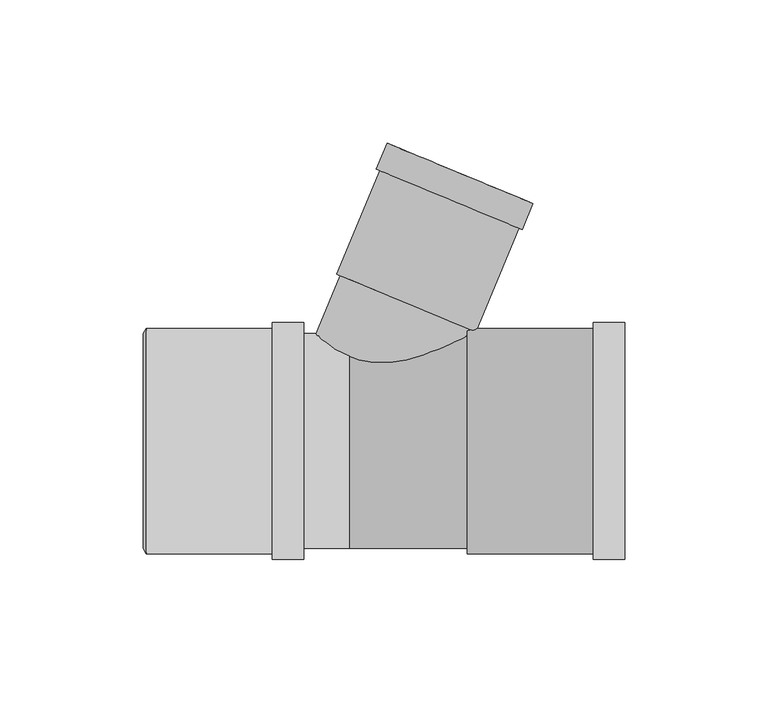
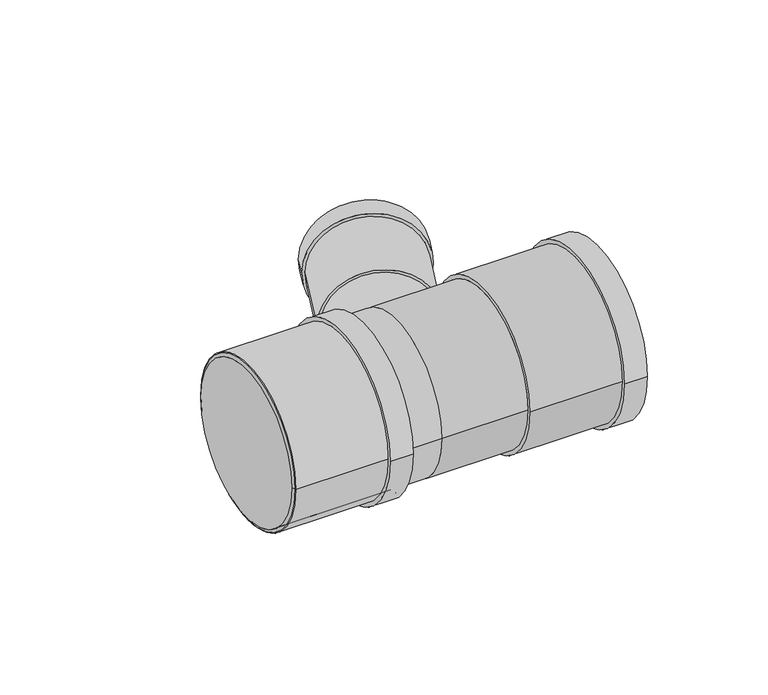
"""IFC4 building model written with IfcOpenShell, lengths in millimetres: pipe fitting geometry, Superdrain HTEA Branch : Superdrain HTEA Branch."""

from ifc_helpers import new_model, si_unit, point, frame, origin, origin_2d, place, context, project, spatial, polyline, circle_curve, trimmed, segment, composite_curve, outline, extrude, source, transform, mapped, element, save
from ifc_brep_helpers import plane_surface, revolved_surface, advanced_brep


def pipe_fitting_d21c2c27(model_context):
    return source(origin(), model_context, "Body", "SolidModel", [
        extrude(outline(composite_curve([segment(trimmed(circle_curve(origin_2d(), 39.375), [point((39.375, 0.0))], [point((-39.375, 0.0))], False, "CARTESIAN"), True, "CONTINUOUS"), segment(trimmed(circle_curve(origin_2d(), 39.375), [point((-39.375, 0.0))], [point((39.375, 0.0))], False, "CARTESIAN"), True, "CONTINUOUS")], self_intersect=False), holes=[composite_curve([segment(trimmed(circle_curve(origin_2d(), 37.5), [point((37.5, 0.0))], [point((-37.5, 0.0))], True, "CARTESIAN"), True, "CONTINUOUS"), segment(trimmed(circle_curve(origin_2d(), 37.5), [point((-37.5, 0.0))], [point((37.5, 0.0))], True, "CARTESIAN"), True, "CONTINUOUS")], self_intersect=False)]), frame((-70.8, 0.0, 0.0), z_axis=(1.0, 0.0, 0.0), x_axis=(0.0, 1.0, 0.0)), (0.0, 0.0, 1.0), 55.0),
        extrude(outline(composite_curve([segment(trimmed(circle_curve(origin_2d(), 41.34375), [point((41.34375, 0.0))], [point((-41.34375, 0.0))], False, "CARTESIAN"), True, "CONTINUOUS"), segment(trimmed(circle_curve(origin_2d(), 41.34375), [point((-41.34375, 0.0))], [point((41.34375, 0.0))], False, "CARTESIAN"), True, "CONTINUOUS")], self_intersect=False), holes=[composite_curve([segment(trimmed(circle_curve(origin_2d(), 37.5), [point((37.5, 0.0))], [point((-37.5, 0.0))], True, "CARTESIAN"), True, "CONTINUOUS"), segment(trimmed(circle_curve(origin_2d(), 37.5), [point((-37.5, 0.0))], [point((37.5, 0.0))], True, "CARTESIAN"), True, "CONTINUOUS")], self_intersect=False)]), frame((-26.8, 0.0, 0.0), z_axis=(1.0, 0.0, 0.0), x_axis=(0.0, 1.0, 0.0)), (0.0, 0.0, 1.0), 11.0),
        advanced_brep(
        [(-71.8, 37.5, 0.0), (-71.8, -37.5, 0.0), (-70.8, 39.375, 0.0), (-70.8, -39.375, 0.0)],
        [
            (0, 1, circle_curve(frame((-71.8, 0.0, 0.0), z_axis=(-1.0, 0.0, 0.0), x_axis=(0.0, 1.0000000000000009, 0.0)), 37.5)),
            (1, 0, circle_curve(frame((-71.8, 0.0, 0.0), z_axis=(-1.0, 0.0, 0.0), x_axis=(0.0, -1.0000000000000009, 0.0)), 37.5)),
            (2, 3, circle_curve(frame((-70.8, 0.0, 0.0), z_axis=(1.0, 0.0, 0.0), x_axis=(0.0, -1.0000000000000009, 0.0)), 39.375)),
            (3, 2, circle_curve(frame((-70.8, 0.0, 0.0), z_axis=(1.0, 0.0, 0.0), x_axis=(0.0, 1.0000000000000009, 0.0)), 39.375)),
            (3, 1),
            (0, 2),
        ],
        [
            plane_surface(frame((-71.8, 0.0, 0.0), z_axis=(-1.0, 0.0, 0.0), x_axis=(0.0, 0.0, -1.0))),
            plane_surface(frame((-70.8, 0.0, 0.0), z_axis=(1.0, 0.0, 0.0), x_axis=(0.0, 0.0, -1.0))),
            revolved_surface(polyline([(-71.8, 37.49999999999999, 0.0), (-70.8, 39.375, 0.0)]), (-91.8, 0.0, 0.0), (1.0000000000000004, 0.0, 0.0)),
            revolved_surface(polyline([(-71.8, -37.49999999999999, 0.0), (-70.8, -39.375, 0.0)]), (-91.8, 0.0, 0.0), (1.0000000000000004, 0.0, 0.0)),
        ],
        [
            (0, [[1, 2]]),
            (1, [[3, 4]]),
            (2, [[-4, 5, -1, 6]]),
            (3, [[-3, -6, -2, -5]]),
        ],
    ),
        extrude(outline(composite_curve([segment(trimmed(circle_curve(origin_2d(), 39.375), [point((-39.375, 0.0))], [point((39.375, 0.0))], False, "CARTESIAN"), True, "CONTINUOUS"), segment(trimmed(circle_curve(origin_2d(), 39.375), [point((39.375, 0.0))], [point((-39.375, 0.0))], False, "CARTESIAN"), True, "CONTINUOUS")], self_intersect=False), holes=[composite_curve([segment(trimmed(circle_curve(origin_2d(), 37.5), [point((37.5, 0.0))], [point((-37.5, 0.0))], True, "CARTESIAN"), True, "CONTINUOUS"), segment(trimmed(circle_curve(origin_2d(), 37.5), [point((-37.5, 0.0))], [point((37.5, 0.0))], True, "CARTESIAN"), True, "CONTINUOUS")], self_intersect=False)]), frame((41.2, 0.0, 0.0), z_axis=(1.0, 0.0, 0.0), x_axis=(0.0, 1.0, 0.0)), (0.0, 0.0, 1.0), 55.0),
        extrude(outline(composite_curve([segment(trimmed(circle_curve(origin_2d(), 41.34375), [point((41.34375, 0.0))], [point((-41.34375, 0.0))], False, "CARTESIAN"), True, "CONTINUOUS"), segment(trimmed(circle_curve(origin_2d(), 41.34375), [point((-41.34375, 0.0))], [point((41.34375, 0.0))], False, "CARTESIAN"), True, "CONTINUOUS")], self_intersect=False), holes=[composite_curve([segment(trimmed(circle_curve(origin_2d(), 37.5), [point((37.5, 0.0))], [point((-37.5, 0.0))], True, "CARTESIAN"), True, "CONTINUOUS"), segment(trimmed(circle_curve(origin_2d(), 37.5), [point((-37.5, 0.0))], [point((37.5, 0.0))], True, "CARTESIAN"), True, "CONTINUOUS")], self_intersect=False)]), frame((85.2, 0.0, 0.0), z_axis=(1.0, 0.0, 0.0), x_axis=(0.0, 1.0, 0.0)), (0.0, 0.0, 1.0), 11.0),
        extrude(outline(composite_curve([segment(trimmed(circle_curve(origin_2d(), 25.0), [point((0.0, 25.0))], [point((0.0, -25.0))], False, "CARTESIAN"), True, "CONTINUOUS"), segment(trimmed(circle_curve(origin_2d(), 25.0), [point((0.0, -25.0))], [point((0.0, 25.0))], False, "CARTESIAN"), True, "CONTINUOUS")], self_intersect=False)), frame((0.0, 0.0, 0.0), z_axis=(0.3826834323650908, 0.9238795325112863, 0.0), x_axis=(0.0, 0.0, 1.0)), (0.0, 0.0, 1.0), 52.2),
        extrude(outline(composite_curve([segment(trimmed(circle_curve(origin_2d(), 37.5), [point((37.5, 0.0))], [point((-37.5, 0.0))], False, "CARTESIAN"), True, "CONTINUOUS"), segment(trimmed(circle_curve(origin_2d(), 37.5), [point((-37.5, 0.0))], [point((37.5, 0.0))], False, "CARTESIAN"), True, "CONTINUOUS")], self_intersect=False)), frame((-70.8, 0.0, 0.0), z_axis=(1.0, 0.0, 0.0), x_axis=(0.0, 1.0, 0.0)), (0.0, 0.0, 1.0), 70.8),
        extrude(outline(composite_curve([segment(trimmed(circle_curve(origin_2d(), 37.5), [point((-37.5, 0.0))], [point((37.5, 0.0))], False, "CARTESIAN"), True, "CONTINUOUS"), segment(trimmed(circle_curve(origin_2d(), 37.5), [point((37.5, 0.0))], [point((-37.5, 0.0))], False, "CARTESIAN"), True, "CONTINUOUS")], self_intersect=False)), frame((0.0, 0.0, 0.0), z_axis=(1.0, 0.0, 0.0), x_axis=(0.0, 1.0, 0.0)), (0.0, 0.0, 1.0), 41.2),
        extrude(outline(composite_curve([segment(trimmed(circle_curve(origin_2d(), 27.5625), [point((0.0, 27.5625))], [point((0.0, -27.5625))], False, "CARTESIAN"), True, "CONTINUOUS"), segment(trimmed(circle_curve(origin_2d(), 27.5625), [point((0.0, -27.5625))], [point((0.0, 27.5625))], False, "CARTESIAN"), True, "CONTINUOUS")], self_intersect=False), holes=[composite_curve([segment(trimmed(circle_curve(origin_2d(), 25.0), [point((0.0, 25.0))], [point((0.0, -25.0))], True, "CARTESIAN"), True, "CONTINUOUS"), segment(trimmed(circle_curve(origin_2d(), 25.0), [point((0.0, -25.0))], [point((0.0, 25.0))], True, "CARTESIAN"), True, "CONTINUOUS")], self_intersect=False)]), frame((34.9772657, 84.4425893, 0.0), z_axis=(0.3826834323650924, 0.9238795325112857, 0.0), x_axis=(0.0, 0.0, 1.0)), (0.0, 0.0, 1.0), 9.8),
        extrude(outline(composite_curve([segment(trimmed(circle_curve(origin_2d(), 26.25), [point((0.0, 26.25))], [point((0.0, -26.2500001))], False, "CARTESIAN"), True, "CONTINUOUS"), segment(trimmed(circle_curve(origin_2d(), 26.25), [point((0.0, -26.2500001))], [point((0.0, 26.25))], False, "CARTESIAN"), True, "CONTINUOUS")], self_intersect=False), holes=[composite_curve([segment(trimmed(circle_curve(origin_2d(), 25.0), [point((0.0, 25.0))], [point((0.0, -25.0))], True, "CARTESIAN"), True, "CONTINUOUS"), segment(trimmed(circle_curve(origin_2d(), 25.0), [point((0.0, -25.0))], [point((0.0, 25.0))], True, "CARTESIAN"), True, "CONTINUOUS")], self_intersect=False)]), frame((19.9760752, 48.2265116, 0.0), z_axis=(0.38268343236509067, 0.9238795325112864, 0.0), x_axis=(0.0, 0.0, 1.0)), (0.0, 0.0, 1.0), 49.0),
    ])


if __name__ == "__main__":
    model = new_model("IFC4")
    model_context = context("Model", 3, world=origin())
    ifc_project = project(units=[si_unit("LENGTHUNIT", "METRE", prefix="MILLI")], contexts=[model_context])
    site = spatial("IfcSite", under=ifc_project)
    building = spatial("IfcBuilding", under=site)
    placement = place(None, origin())
    pipe_fitting_shape = pipe_fitting_d21c2c27(model_context)
    element("IfcPipeFitting", 1, ObjectType="Superdrain HTEA Branch : Superdrain HTEA Branch", at=placement, inside=building, context=model_context, shape_type="MappedRepresentation", body=[
        mapped(pipe_fitting_shape, transform((0.0, 0.0, 0.0), x_axis=(1.0, 0.0, 0.0), y_axis=(0.0, 1.0, 0.0), z_axis=(0.0, 0.0, 1.0))),
    ])
    save(model, "model.ifc")
